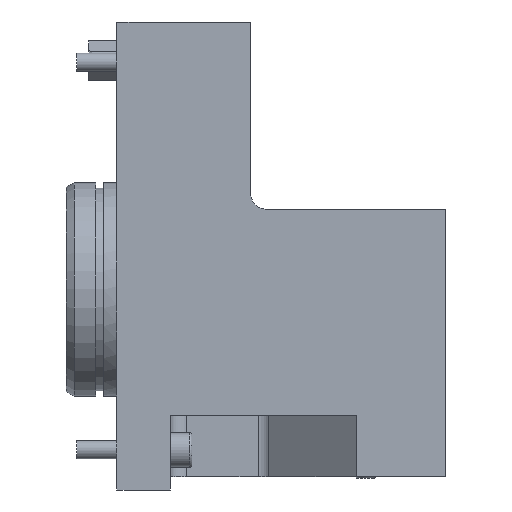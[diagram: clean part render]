
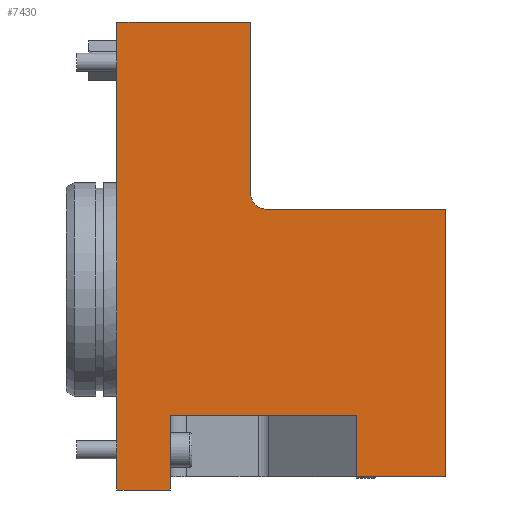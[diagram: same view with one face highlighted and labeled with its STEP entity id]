
A CAD part, front view. The second image highlights one B-rep face of the part: STEP entity #7430.
In plain terms, the highlighted planar face has unit normal (0, -1, 0).
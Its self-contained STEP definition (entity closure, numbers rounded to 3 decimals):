
#3374=CIRCLE('',#7062,6.);
#3538=ORIENTED_EDGE('',*,*,#4834,.F.);
#3539=ORIENTED_EDGE('',*,*,#4835,.T.);
#3540=ORIENTED_EDGE('',*,*,#4836,.F.);
#3541=ORIENTED_EDGE('',*,*,#4837,.F.);
#3542=ORIENTED_EDGE('',*,*,#4838,.F.);
#3543=ORIENTED_EDGE('',*,*,#4839,.T.);
#3544=ORIENTED_EDGE('',*,*,#4823,.T.);
#3545=ORIENTED_EDGE('',*,*,#4840,.F.);
#3546=ORIENTED_EDGE('',*,*,#4841,.F.);
#3547=ORIENTED_EDGE('',*,*,#4842,.F.);
#3548=ORIENTED_EDGE('',*,*,#4843,.T.);
#4144=VECTOR('',#5611,1.);
#4148=VECTOR('',#5631,1.);
#4149=VECTOR('',#5632,1.);
#4150=VECTOR('',#5633,1.);
#4151=VECTOR('',#5636,1.);
#4152=VECTOR('',#5637,1.);
#4153=VECTOR('',#5638,1.);
#4154=VECTOR('',#5639,1.);
#4155=VECTOR('',#5640,1.);
#4156=VECTOR('',#5641,1.);
#4361=LINE('',#6370,#4144);
#4365=LINE('',#6392,#4148);
#4366=LINE('',#6394,#4149);
#4367=LINE('',#6396,#4150);
#4368=LINE('',#6400,#4151);
#4369=LINE('',#6401,#4152);
#4370=LINE('',#6403,#4153);
#4371=LINE('',#6405,#4154);
#4372=LINE('',#6407,#4155);
#4373=LINE('',#6408,#4156);
#4584=VERTEX_POINT('',#6368);
#4585=VERTEX_POINT('',#6369);
#4594=VERTEX_POINT('',#6390);
#4595=VERTEX_POINT('',#6391);
#4596=VERTEX_POINT('',#6393);
#4597=VERTEX_POINT('',#6395);
#4598=VERTEX_POINT('',#6397);
#4599=VERTEX_POINT('',#6399);
#4600=VERTEX_POINT('',#6402);
#4601=VERTEX_POINT('',#6404);
#4602=VERTEX_POINT('',#6406);
#4823=EDGE_CURVE('',#4584,#4585,#4361,.T.);
#4834=EDGE_CURVE('',#4594,#4595,#4365,.T.);
#4835=EDGE_CURVE('',#4594,#4596,#4366,.T.);
#4836=EDGE_CURVE('',#4597,#4596,#4367,.T.);
#4837=EDGE_CURVE('',#4598,#4597,#3374,.T.);
#4838=EDGE_CURVE('',#4599,#4598,#4368,.T.);
#4839=EDGE_CURVE('',#4599,#4584,#4369,.T.);
#4840=EDGE_CURVE('',#4600,#4585,#4370,.T.);
#4841=EDGE_CURVE('',#4601,#4600,#4371,.T.);
#4842=EDGE_CURVE('',#4602,#4601,#4372,.T.);
#4843=EDGE_CURVE('',#4602,#4595,#4373,.T.);
#5141=EDGE_LOOP('',(#3538,#3539,#3540,#3541,#3542,#3543,#3544,#3545,#3546,
#3547,#3548));
#5350=FACE_BOUND('',#5141,.T.);
#5611=DIRECTION('',(0.,0.,-175.));
#5629=DIRECTION('',(0.,-1.,0.));
#5630=DIRECTION('',(-1.,0.,0.));
#5631=DIRECTION('',(-33.439,0.,0.));
#5632=DIRECTION('',(0.,0.,100.));
#5633=DIRECTION('',(67.,0.,0.));
#5634=DIRECTION('',(0.,-1.,0.));
#5635=DIRECTION('',(-6.,0.,0.));
#5636=DIRECTION('',(0.,0.,-64.));
#5637=DIRECTION('',(-50.,0.,0.));
#5638=DIRECTION('',(-20.,0.,0.));
#5639=DIRECTION('',(0.,0.,-28.));
#5640=DIRECTION('',(-69.561,0.,0.));
#5641=DIRECTION('',(0.,0.,-23.));
#6368=CARTESIAN_POINT('',(0.,-49.,100.));
#6369=CARTESIAN_POINT('',(0.,-49.,-75.));
#6370=CARTESIAN_POINT('',(0.,-49.,100.));
#6389=CARTESIAN_POINT('',(123.,-49.,-75.));
#6390=CARTESIAN_POINT('',(123.,-49.,-70.));
#6391=CARTESIAN_POINT('',(89.561,-49.,-70.));
#6392=CARTESIAN_POINT('',(123.,-49.,-70.));
#6393=CARTESIAN_POINT('',(123.,-49.,30.));
#6394=CARTESIAN_POINT('',(123.,-49.,-70.));
#6395=CARTESIAN_POINT('',(56.,-49.,30.));
#6396=CARTESIAN_POINT('',(56.,-49.,30.));
#6397=CARTESIAN_POINT('',(50.,-49.,36.));
#6398=CARTESIAN_POINT('',(56.,-49.,36.));
#6399=CARTESIAN_POINT('',(50.,-49.,100.));
#6400=CARTESIAN_POINT('',(50.,-49.,100.));
#6401=CARTESIAN_POINT('',(50.,-49.,100.));
#6402=CARTESIAN_POINT('',(20.,-49.,-75.));
#6403=CARTESIAN_POINT('',(20.,-49.,-75.));
#6404=CARTESIAN_POINT('',(20.,-49.,-47.));
#6405=CARTESIAN_POINT('',(20.,-49.,-47.));
#6406=CARTESIAN_POINT('',(89.561,-49.,-47.));
#6407=CARTESIAN_POINT('',(89.561,-49.,-47.));
#6408=CARTESIAN_POINT('',(89.561,-49.,-47.));
#7061=AXIS2_PLACEMENT_3D('',#6389,#5629,#5630);
#7062=AXIS2_PLACEMENT_3D('',#6398,#5634,#5635);
#7307=PLANE('',#7061);
#7430=ADVANCED_FACE('',(#5350),#7307,.T.);
